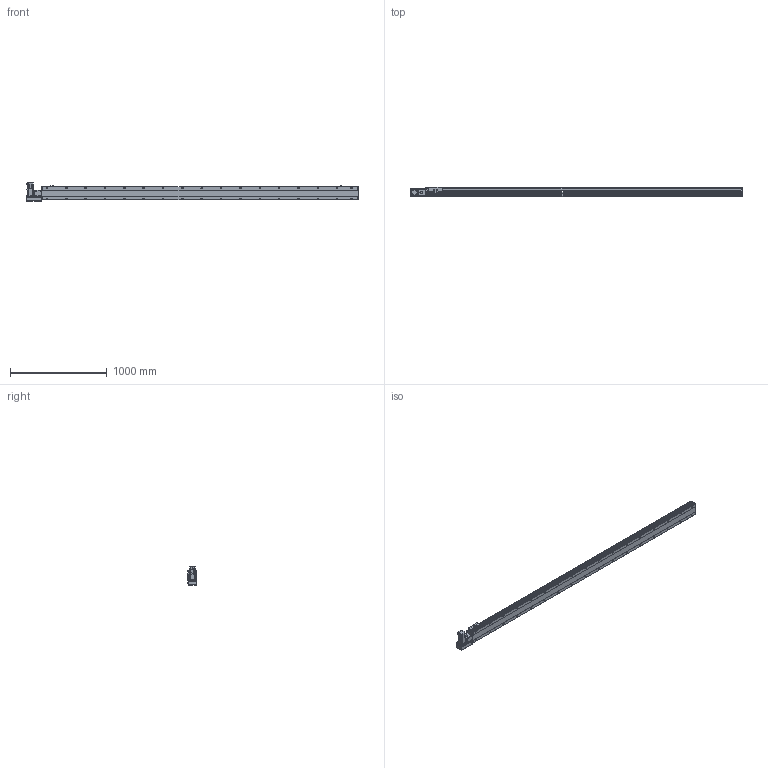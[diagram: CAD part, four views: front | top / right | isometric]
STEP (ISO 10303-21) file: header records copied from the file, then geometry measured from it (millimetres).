
FILE_DESCRIPTION( ( 'STEP AP214' ), '1' );
FILE_NAME( 'x:/temp/worker_6/temp/exporttempdir_5396_37_847T4/format_0/PBS140S-P40-S3000-L-T40-C1-N(0).stp', '2022-06-09T00:06:02', ( 'License CC BY-ND 4.0' ), ( 'CADENAS' ), ' ', 'PARTsolutions', ' ' );
FILE_SCHEMA( ( 'AUTOMOTIVE_DESIGN { 1 0 10303 214 1 1 1 1 }' ) );
Length unit declared in the file: millimetre
Products named in the file (7): PBS140S-P40-S3000-L-T40-C1-N(0); _PBS140S-S3000()_body; _PBS140ST-L_motors; _T40-p1; _PBS140S_sliser; _PBS140S_plant; _PBS140S_sensor
Assembly tree (8 placements, depth 2):
  PBS140S-P40-S3000-L-T40-C1-N(0)
    _PBS140S-S3000()_body
    _PBS140ST-L_motors
    _T40-p1
    _PBS140S_sliser
    _PBS140S_plant
    _PBS140S_sensor  x3
Bounding box: 3433 x 93 x 189.7 mm (x, y, z)
Volume: 16147224.2 mm3; surface area: 2709289.5 mm2
Topology: 8 solids, 8 shells, 1243 faces, 3271 edges, 2139 vertices
Faces by surface type: plane 756, cylinder 417, cone 60, sphere 8, torus 2
Full cylindrical faces by diameter (mm): 3.242 x4, 4 x2, 4.134 x4, 4.4 x8, 4.5 x2, 4.8 x4, 4.917 x42, 5.5 x7, 6 x2, 7 x36, 7.5 x8, 8 x12, 8.5 x4, 10.5 x34, 14 x1, 30 x2, 50 x2
Entity records: 46114 total; most frequent: CARTESIAN_POINT 7918, DIRECTION 5978, ORIENTED_EDGE 5602, EDGE_CURVE 2801, AXIS2_PLACEMENT_3D 2129, VERTEX_POINT 1969, LINE 1720, VECTOR 1720
